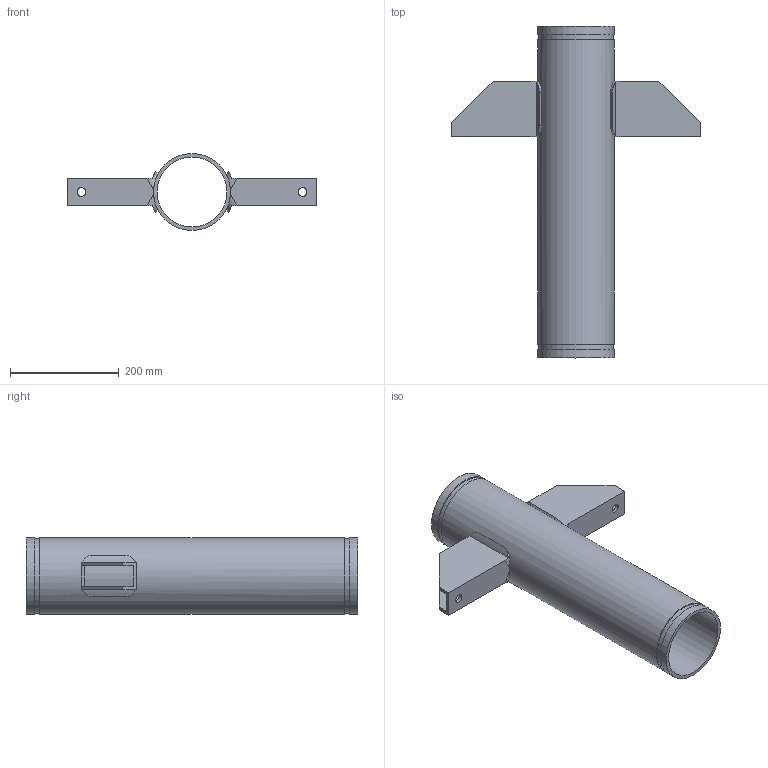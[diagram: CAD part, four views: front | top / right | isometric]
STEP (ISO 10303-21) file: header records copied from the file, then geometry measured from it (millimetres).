
FILE_DESCRIPTION(/* description */ ('VIC Floor-Mounted Carbon Steel Riser Anchor No A10','CAx-IF Rec.Pracs.---Representation and Presentation of Product Manufacturing Information (PMI)---4.0---2014-10-13'),/* implementation_level */ '2;1');
FILE_NAME(/* name */ 'C:\Users\kkamble\AppData\Roaming\Autodesk\ApplicationPlugins\Back Up\Victaulic_SS-OGS_Riser Anchor_No A10 (OGS)\Victaulic_SS-OGS_Riser Anchor_No A10 (OGS)_5 (125).stp',/* time_stamp */ '2020-08-25T18:06:49+06:00',/* author */ ('kkamble'),/* organization */ ('Victaulic'),/* preprocessor_version */ 'ST-DEVELOPER v17.2',/* originating_system */ 'Autodesk Inventor 2019',/* authorisation */ '');
FILE_SCHEMA (('AP242_MANAGED_MODEL_BASED_3D_ENGINEERING_MIM_LF { 1 0 10303 442 1 1 4 }'));
Length unit declared in the file: inch
Products named in the file (1): A10S-05.0
Bounding box: 457.2 x 609.6 x 141.3 mm (x, y, z)
Volume: 2195422.9 mm3; surface area: 670572.1 mm2
Topology: 1 solids, 1 shells, 56 faces, 155 edges, 106 vertices
Faces by surface type: plane 34, cylinder 22
Full cylindrical faces by diameter (mm): 15.875 x2, 128.194 x1, 137.033 x2, 141.3 x3
Entity records: 2201 total; most frequent: CARTESIAN_POINT 559, DIRECTION 325, ORIENTED_EDGE 310, EDGE_CURVE 155, AXIS2_PLACEMENT_3D 116, VERTEX_POINT 106, LINE 93, VECTOR 93
